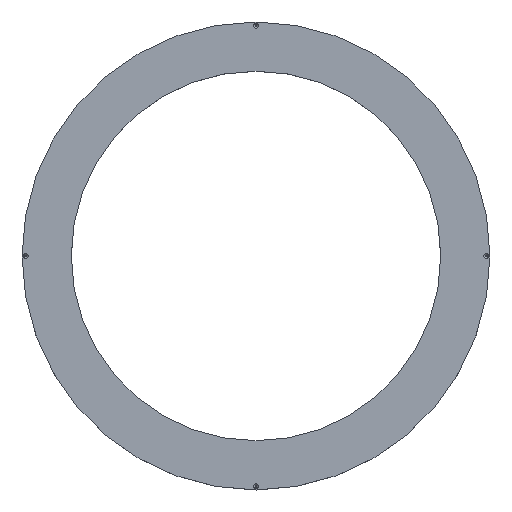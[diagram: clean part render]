
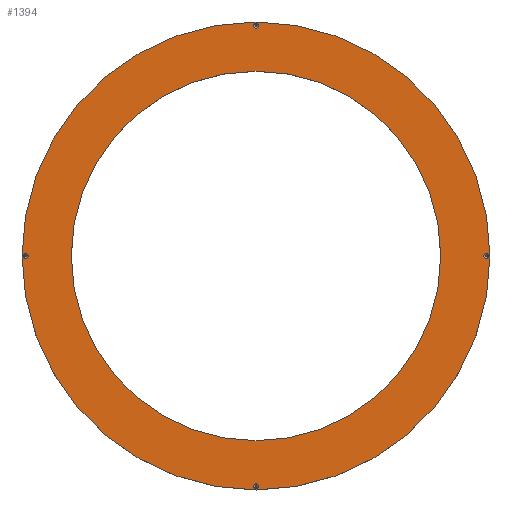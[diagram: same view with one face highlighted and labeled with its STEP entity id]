
A CAD part, top view. The second image highlights one B-rep face of the part: STEP entity #1394.
In plain terms, the highlighted planar face has unit normal (0, 0, 1).
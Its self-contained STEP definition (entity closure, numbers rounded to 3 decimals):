
#235=CARTESIAN_POINT('',(0.,0.,27.));
#236=DIRECTION('',(0.,0.,1.));
#237=DIRECTION('',(1.,0.,0.));
#238=AXIS2_PLACEMENT_3D('',#235,#236,#237);
#240=CARTESIAN_POINT('',(0.,0.,27.));
#241=DIRECTION('',(0.,0.,1.));
#242=DIRECTION('',(-1.,0.,0.));
#243=AXIS2_PLACEMENT_3D('',#240,#241,#242);
#245=CARTESIAN_POINT('',(0.,0.,27.));
#246=DIRECTION('',(0.,0.,-1.));
#247=DIRECTION('',(1.,0.,0.));
#248=AXIS2_PLACEMENT_3D('',#245,#246,#247);
#250=CARTESIAN_POINT('',(0.,0.,27.));
#251=DIRECTION('',(0.,0.,-1.));
#252=DIRECTION('',(-1.,0.,0.));
#253=AXIS2_PLACEMENT_3D('',#250,#251,#252);
#255=CARTESIAN_POINT('',(0.,-187.,27.));
#256=DIRECTION('',(0.,0.,-1.));
#257=DIRECTION('',(0.,1.,0.));
#258=AXIS2_PLACEMENT_3D('',#255,#256,#257);
#260=CARTESIAN_POINT('',(0.,-187.,27.));
#261=DIRECTION('',(0.,0.,-1.));
#262=DIRECTION('',(0.,-1.,0.));
#263=AXIS2_PLACEMENT_3D('',#260,#261,#262);
#265=CARTESIAN_POINT('',(187.,0.,27.));
#266=DIRECTION('',(0.,0.,-1.));
#267=DIRECTION('',(0.,1.,0.));
#268=AXIS2_PLACEMENT_3D('',#265,#266,#267);
#270=CARTESIAN_POINT('',(187.,0.,27.));
#271=DIRECTION('',(0.,0.,-1.));
#272=DIRECTION('',(-0.001,-1.,0.));
#273=AXIS2_PLACEMENT_3D('',#270,#271,#272);
#275=CARTESIAN_POINT('',(0.,187.,27.));
#276=DIRECTION('',(0.,0.,-1.));
#277=DIRECTION('',(0.,1.,0.));
#278=AXIS2_PLACEMENT_3D('',#275,#276,#277);
#280=CARTESIAN_POINT('',(0.,187.,27.));
#281=DIRECTION('',(0.,0.,-1.));
#282=DIRECTION('',(0.,-1.,0.));
#283=AXIS2_PLACEMENT_3D('',#280,#281,#282);
#285=CARTESIAN_POINT('',(-187.,0.,27.));
#286=DIRECTION('',(0.,0.,-1.));
#287=DIRECTION('',(0.001,1.,0.));
#288=AXIS2_PLACEMENT_3D('',#285,#286,#287);
#290=CARTESIAN_POINT('',(-187.,0.,27.));
#291=DIRECTION('',(0.,0.,-1.));
#292=DIRECTION('',(0.,-1.,0.));
#293=AXIS2_PLACEMENT_3D('',#290,#291,#292);
#871=CARTESIAN_POINT('',(190.,0.,27.));
#872=CARTESIAN_POINT('',(-190.,0.,27.));
#873=VERTEX_POINT('',#871);
#874=VERTEX_POINT('',#872);
#875=CARTESIAN_POINT('',(150.,0.,27.));
#876=CARTESIAN_POINT('',(-150.,0.,27.));
#877=VERTEX_POINT('',#875);
#878=VERTEX_POINT('',#876);
#983=CARTESIAN_POINT('',(0.,-185.,27.));
#984=CARTESIAN_POINT('',(0.,-189.,27.));
#985=VERTEX_POINT('',#983);
#986=VERTEX_POINT('',#984);
#991=CARTESIAN_POINT('',(187.,2.,27.));
#992=CARTESIAN_POINT('',(186.999,-2.,27.));
#993=VERTEX_POINT('',#991);
#994=VERTEX_POINT('',#992);
#999=CARTESIAN_POINT('',(0.,189.,27.));
#1000=CARTESIAN_POINT('',(0.,185.,27.));
#1001=VERTEX_POINT('',#999);
#1002=VERTEX_POINT('',#1000);
#1007=CARTESIAN_POINT('',(-186.999,2.,27.));
#1008=CARTESIAN_POINT('',(-187.,-2.,27.));
#1009=VERTEX_POINT('',#1007);
#1010=VERTEX_POINT('',#1008);
#1354=CARTESIAN_POINT('',(0.,0.,27.));
#1355=DIRECTION('',(0.,0.,1.));
#1356=DIRECTION('',(1.,0.,0.));
#1357=AXIS2_PLACEMENT_3D('',#1354,#1355,#1356);
#1358=PLANE('',#1357);
#1360=ORIENTED_EDGE('',*,*,#1359,.F.);
#1362=ORIENTED_EDGE('',*,*,#1361,.F.);
#1363=EDGE_LOOP('',(#1360,#1362));
#1364=FACE_OUTER_BOUND('',#1363,.F.);
#1366=ORIENTED_EDGE('',*,*,#1365,.F.);
#1368=ORIENTED_EDGE('',*,*,#1367,.F.);
#1369=EDGE_LOOP('',(#1366,#1368));
#1370=FACE_BOUND('',#1369,.F.);
#1372=ORIENTED_EDGE('',*,*,#1371,.F.);
#1374=ORIENTED_EDGE('',*,*,#1373,.F.);
#1375=EDGE_LOOP('',(#1372,#1374));
#1376=FACE_BOUND('',#1375,.F.);
#1377=ORIENTED_EDGE('',*,*,#1344,.F.);
#1379=ORIENTED_EDGE('',*,*,#1378,.F.);
#1380=EDGE_LOOP('',(#1377,#1379));
#1381=FACE_BOUND('',#1380,.F.);
#1383=ORIENTED_EDGE('',*,*,#1382,.F.);
#1385=ORIENTED_EDGE('',*,*,#1384,.F.);
#1386=EDGE_LOOP('',(#1383,#1385));
#1387=FACE_BOUND('',#1386,.F.);
#1389=ORIENTED_EDGE('',*,*,#1388,.F.);
#1391=ORIENTED_EDGE('',*,*,#1390,.F.);
#1392=EDGE_LOOP('',(#1389,#1391));
#1393=FACE_BOUND('',#1392,.F.);
#239=CIRCLE('',#238,190.);
#244=CIRCLE('',#243,190.);
#249=CIRCLE('',#248,150.);
#254=CIRCLE('',#253,150.);
#259=CIRCLE('',#258,2.);
#264=CIRCLE('',#263,2.);
#269=CIRCLE('',#268,2.);
#274=CIRCLE('',#273,2.);
#279=CIRCLE('',#278,2.);
#284=CIRCLE('',#283,2.);
#289=CIRCLE('',#288,2.);
#294=CIRCLE('',#293,2.);
#1344=EDGE_CURVE('',#993,#994,#269,.T.);
#1359=EDGE_CURVE('',#873,#874,#239,.T.);
#1361=EDGE_CURVE('',#874,#873,#244,.T.);
#1365=EDGE_CURVE('',#877,#878,#249,.T.);
#1367=EDGE_CURVE('',#878,#877,#254,.T.);
#1371=EDGE_CURVE('',#985,#986,#259,.T.);
#1373=EDGE_CURVE('',#986,#985,#264,.T.);
#1378=EDGE_CURVE('',#994,#993,#274,.T.);
#1382=EDGE_CURVE('',#1001,#1002,#279,.T.);
#1384=EDGE_CURVE('',#1002,#1001,#284,.T.);
#1388=EDGE_CURVE('',#1009,#1010,#289,.T.);
#1390=EDGE_CURVE('',#1010,#1009,#294,.T.);
#1394=ADVANCED_FACE('',(#1364,#1370,#1376,#1381,#1387,#1393),#1358,.T.);
